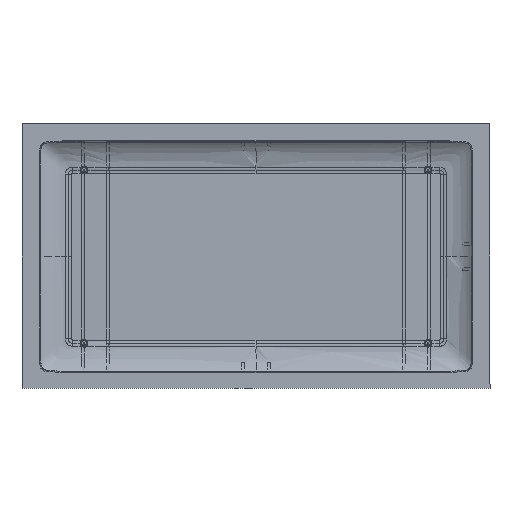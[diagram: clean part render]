
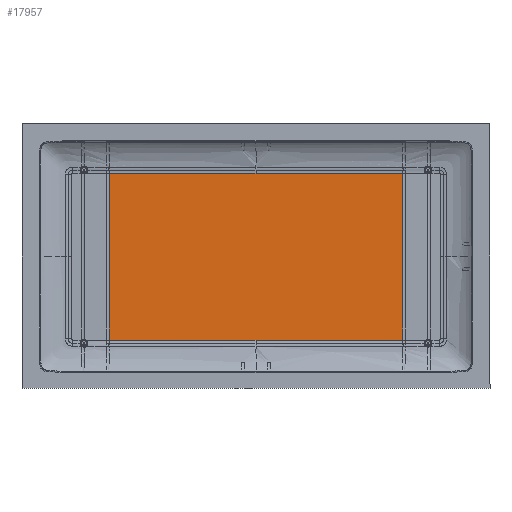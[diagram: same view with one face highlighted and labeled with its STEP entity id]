
A CAD part, front view. The second image highlights one B-rep face of the part: STEP entity #17957.
In plain terms, the highlighted planar face has unit normal (0, -1, 0).
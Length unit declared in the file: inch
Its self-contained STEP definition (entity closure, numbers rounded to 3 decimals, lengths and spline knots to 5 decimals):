
#1352 = VECTOR ( 'NONE', #8535, 39.37008 ) ;
#4029 = ORIENTED_EDGE ( 'NONE', *, *, #56505, .F. ) ;
#4306 = DIRECTION ( 'NONE',  ( -1., 0., 0. ) ) ;
#5357 = DIRECTION ( 'NONE',  ( 1., 0., 0. ) ) ;
#6292 = EDGE_CURVE ( 'NONE', #34642, #59193, #10280, .T. ) ;
#6775 = ORIENTED_EDGE ( 'NONE', *, *, #50482, .T. ) ;
#7490 = ORIENTED_EDGE ( 'NONE', *, *, #48624, .F. ) ;
#8535 = DIRECTION ( 'NONE',  ( -1., 0., 0. ) ) ;
#9288 = LINE ( 'NONE', #49474, #20052 ) ;
#9786 = CARTESIAN_POINT ( 'NONE',  ( 0., 2.05, -5.80189 ) ) ;
#10199 = CARTESIAN_POINT ( 'NONE',  ( 10.20321, 2.05, -5.80189 ) ) ;
#10280 = LINE ( 'NONE', #9786, #45725 ) ;
#11070 = CARTESIAN_POINT ( 'NONE',  ( 0., 2.05, -5.80189 ) ) ;
#12499 = DIRECTION ( 'NONE',  ( 0., 0., -1. ) ) ;
#14588 = AXIS2_PLACEMENT_3D ( 'NONE', #21078, #58679, #31026 ) ;
#17303 = VERTEX_POINT ( 'NONE', #10199 ) ;
#17957 = ADVANCED_FACE ( 'NONE', ( #31740 ), #54040, .F. ) ;
#18323 = VERTEX_POINT ( 'NONE', #55206 ) ;
#18392 = CARTESIAN_POINT ( 'NONE',  ( -10.20321, 2.05, -5.80189 ) ) ;
#18684 = VECTOR ( 'NONE', #4306, 39.37008 ) ;
#20052 = VECTOR ( 'NONE', #12499, 39.37008 ) ;
#21013 = CARTESIAN_POINT ( 'NONE',  ( 0., 2.05, -5.80189 ) ) ;
#21078 = CARTESIAN_POINT ( 'NONE',  ( 0., 2.05, 0. ) ) ;
#21485 = VERTEX_POINT ( 'NONE', #51433 ) ;
#23674 = LINE ( 'NONE', #21013, #57635 ) ;
#24296 = EDGE_LOOP ( 'NONE', ( #4029, #33495, #6775, #7490, #58843, #39280 ) ) ;
#27937 = LINE ( 'NONE', #52197, #52477 ) ;
#31026 = DIRECTION ( 'NONE',  ( 0., 0., 1. ) ) ;
#31043 = LINE ( 'NONE', #54978, #18684 ) ;
#31740 = FACE_OUTER_BOUND ( 'NONE', #24296, .T. ) ;
#33495 = ORIENTED_EDGE ( 'NONE', *, *, #6292, .T. ) ;
#34642 = VERTEX_POINT ( 'NONE', #18392 ) ;
#38875 = VERTEX_POINT ( 'NONE', #41936 ) ;
#39280 = ORIENTED_EDGE ( 'NONE', *, *, #48005, .T. ) ;
#40839 = CARTESIAN_POINT ( 'NONE',  ( 0., 2.05, 5.80189 ) ) ;
#41936 = CARTESIAN_POINT ( 'NONE',  ( 0., 2.05, 5.80189 ) ) ;
#45191 = EDGE_CURVE ( 'NONE', #18323, #38875, #31043, .T. ) ;
#45725 = VECTOR ( 'NONE', #5357, 39.37008 ) ;
#48005 = EDGE_CURVE ( 'NONE', #38875, #21485, #49049, .T. ) ;
#48624 = EDGE_CURVE ( 'NONE', #18323, #17303, #9288, .T. ) ;
#49049 = LINE ( 'NONE', #40839, #1352 ) ;
#49474 = CARTESIAN_POINT ( 'NONE',  ( 10.20321, 2.05, 5.80189 ) ) ;
#50482 = EDGE_CURVE ( 'NONE', #59193, #17303, #23674, .T. ) ;
#51433 = CARTESIAN_POINT ( 'NONE',  ( -10.20321, 2.05, 5.80189 ) ) ;
#52197 = CARTESIAN_POINT ( 'NONE',  ( -10.20321, 2.05, 5.80189 ) ) ;
#52477 = VECTOR ( 'NONE', #56832, 39.37008 ) ;
#54040 = PLANE ( 'NONE',  #14588 ) ;
#54978 = CARTESIAN_POINT ( 'NONE',  ( 0., 2.05, 5.80189 ) ) ;
#55206 = CARTESIAN_POINT ( 'NONE',  ( 10.20321, 2.05, 5.80189 ) ) ;
#56505 = EDGE_CURVE ( 'NONE', #34642, #21485, #27937, .T. ) ;
#56832 = DIRECTION ( 'NONE',  ( 0., 0., 1. ) ) ;
#57635 = VECTOR ( 'NONE', #57979, 39.37008 ) ;
#57979 = DIRECTION ( 'NONE',  ( 1., 0., 0. ) ) ;
#58679 = DIRECTION ( 'NONE',  ( 0., 1., 0. ) ) ;
#58843 = ORIENTED_EDGE ( 'NONE', *, *, #45191, .T. ) ;
#59193 = VERTEX_POINT ( 'NONE', #11070 ) ;
